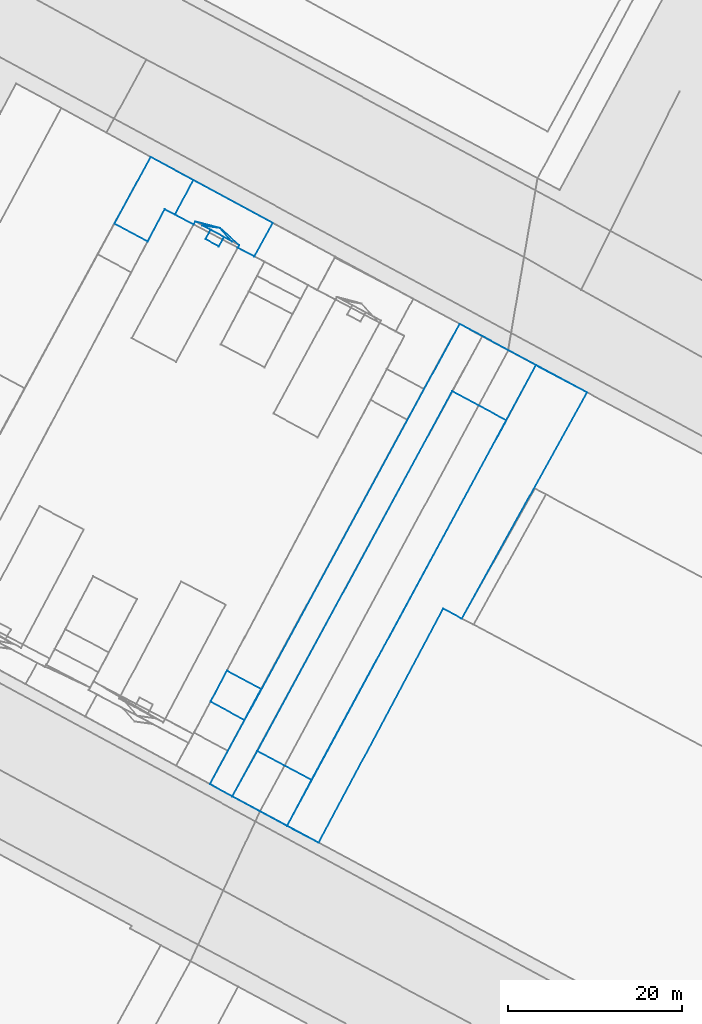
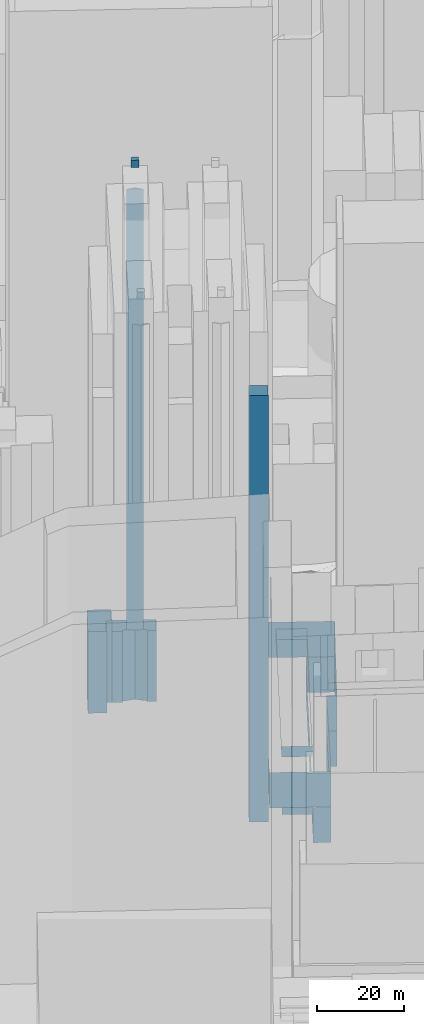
# Not in any storey, part 19 of 76: 9 walls.
"""IFC2X3 model written with IfcOpenShell, lengths in metres."""

from ifc_helpers import new_model, si_unit, frame, origin_with_axes, place, context, subcontext, project, faceted_brep, element, save


model = new_model("IFC2X3")

# Units and contexts
model_context = context("Model", 3, precision=1e-05, world=origin_with_axes())
body_context = subcontext(model_context, "Body", "Model", "MODEL_VIEW")
ifc_project = project(units=[si_unit("AREAUNIT", "SQUARE_METRE"), si_unit("LENGTHUNIT", "METRE")], contexts=[model_context])

# Walls
wall_1_placement = place(None, frame((117.977917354, 107.1295738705, 28.6103156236), z_axis=(0.0, 0.0, 1.0), x_axis=(1.0, 0.0, 0.0)))
element("IfcWall", 1, at=wall_1_placement, Name="Mur 0", context=body_context, shape_type="Brep", body=[
    faceted_brep([(6.3201951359, -3.4126857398, 2.0), (0.0, 0.0, 2.0), (6.3201951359, -3.4126857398, 0.0), (0.0, 0.0, 0.0), (9.1372634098, 1.8825086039, 2.0), (9.1372634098, 1.8825086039, 0.0), (2.9022495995, 5.2295679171, 2.0), (2.9022495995, 5.2295679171, 0.0)], [[[0, 1, 2]], [[2, 1, 3]], [[4, 0, 5]], [[5, 0, 2]], [[1, 6, 3]], [[3, 6, 7]], [[6, 4, 7]], [[7, 4, 5]]]),
])
wall_2_placement = place(None, frame((115.4875749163, 118.0363623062, 20.7911243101), z_axis=(0.0, 0.0, 1.0), x_axis=(1.0, 0.0, 0.0)))
element("IfcWall", 2, at=wall_2_placement, Name="Mur 0", context=body_context, shape_type="Brep", body=[
    faceted_brep([(3.8991819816, -2.1085420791, 120.0), (0.0, 0.0, 120.0), (3.8991819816, -2.1085420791, 0.0), (0.0, 0.0, 0.0), (5.8246692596, 1.4554440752, 120.0), (5.8246692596, 1.4554440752, 0.0), (1.8915978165, 3.5746936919, 120.0), (1.8915978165, 3.5746936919, 0.0)], [[[0, 1, 2]], [[2, 1, 3]], [[4, 0, 5]], [[5, 0, 2]], [[1, 6, 3]], [[3, 6, 7]], [[6, 4, 7]], [[7, 4, 5]]]),
])
wall_3_placement = place(None, frame((124.2981124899, 103.7168881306, 20.5602683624), z_axis=(0.0, 0.0, 1.0), x_axis=(1.0, 0.0, 0.0)))
element("IfcWall", 3, at=wall_3_placement, Name="Mur 0", context=body_context, shape_type="Brep", body=[
    faceted_brep([(3.6522260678, -1.9226684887, 10.0), (0.0, 0.0, 10.0), (3.6522260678, -1.9226684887, 0.0), (0.0, 0.0, 0.0), (18.0018064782, 25.0559943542, 10.0), (18.0018064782, 25.0559943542, 0.0), (20.1510385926, 23.8930274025, 10.0), (20.1510385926, 23.8930274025, 0.0), (34.5701681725, 49.9621498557, 10.0), (34.5701681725, 49.9621498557, 0.0), (28.6922531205, 53.0912869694, 10.0), (28.6922531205, 53.0912869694, 0.0)], [[[0, 1, 2]], [[2, 1, 3]], [[4, 0, 5]], [[5, 0, 2]], [[6, 4, 7]], [[7, 4, 5]], [[8, 6, 9]], [[9, 6, 7]], [[1, 10, 3]], [[3, 10, 11]], [[10, 8, 11]], [[11, 8, 9]]]),
])
wall_4_placement = place(None, frame((115.4207049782, 108.532058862, 30.5602683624), z_axis=(0.0, 0.0, 1.0), x_axis=(1.0, 0.0, 0.0)))
element("IfcWall", 4, at=wall_4_placement, Name="Mur 0", context=body_context, shape_type="Brep", body=[
    faceted_brep([(12.5296335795, -6.7378392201, 10.0), (0.0, 0.0, 10.0), (12.5296335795, -6.7378392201, 0.0), (0.0, 0.0, 0.0), (26.8792139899, 20.2408236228, 10.0), (26.8792139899, 20.2408236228, 0.0), (29.0284461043, 19.0778566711, 10.0), (29.0284461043, 19.0778566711, 0.0), (43.4475756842, 45.1469791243, 10.0), (43.4475756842, 45.1469791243, 0.0), (28.7687753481, 53.0477319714, 10.0), (28.7687753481, 53.0477319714, 0.0)], [[[0, 1, 2]], [[2, 1, 3]], [[4, 0, 5]], [[5, 0, 2]], [[6, 4, 7]], [[7, 4, 5]], [[8, 6, 9]], [[9, 6, 7]], [[1, 10, 3]], [[3, 10, 11]], [[10, 8, 11]], [[11, 8, 9]]]),
])
wall_5_placement = place(None, frame((120.8801669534, 112.3591417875, 40.6481645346), z_axis=(0.0, 0.0, 1.0), x_axis=(1.0, 0.0, 0.0)))
element("IfcWall", 5, at=wall_5_placement, Name="Mur 0", context=body_context, shape_type="Brep", body=[
    faceted_brep([(6.2350138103, -3.3470593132, 3.0), (0.0, 0.0, 3.0), (6.2350138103, -3.3470593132, 0.0), (0.0, 0.0, 0.0), (28.6975847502, 38.1032951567, 3.0), (28.6975847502, 38.1032951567, 0.0), (22.4624654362, 41.461436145, 3.0), (22.4624654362, 41.461436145, 0.0)], [[[0, 1, 2]], [[2, 1, 3]], [[4, 0, 5]], [[5, 0, 2]], [[1, 6, 3]], [[3, 6, 7]], [[6, 4, 7]], [[7, 4, 5]]]),
])
wall_6_placement = place(None, frame((114.5459395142, 172.9371592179, 41.8919622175), z_axis=(0.0, 0.0, 1.0), x_axis=(1.0, 0.0, 0.0)))
element("IfcWall", 6, at=wall_6_placement, Name="Mur 0", context=body_context, shape_type="Brep", body=[
    faceted_brep([(2.4804532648, -1.3367629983, 124.0), (0.0, 0.0, 124.0), (2.4804532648, -1.3367629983, 0.0), (0.0, 0.0, 0.0), (3.4318372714, -1.8475169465, 124.0), (3.4318372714, -1.8475169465, 0.0), (2.0464414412, -0.3092952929, 124.0), (2.0464414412, -0.3092952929, 0.0)], [[[0, 1, 2]], [[2, 1, 3]], [[4, 0, 5]], [[5, 0, 2]], [[1, 6, 3]], [[3, 6, 7]], [[6, 4, 7]], [[7, 4, 5]]]),
])
wall_7_placement = place(None, frame((114.9105640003, 171.3426705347, 172.8731858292), z_axis=(0.0, 0.0, 1.0), x_axis=(1.0, 0.0, 0.0)))
element("IfcWall", 7, at=wall_7_placement, Name="Mur 0", context=body_context, shape_type="Brep", body=[
    faceted_brep([(1.529069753, -0.8260088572, 2.0), (0.0, 0.0, 2.0), (1.529069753, -0.8260088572, 0.0), (0.0, 0.0, 0.0), (2.1158287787, 0.2577256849, 2.0), (2.1158287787, 0.2577256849, 0.0), (0.5867591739, 1.0837344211, 2.0), (0.5867591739, 1.0837344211, 0.0)], [[[0, 1, 2]], [[2, 1, 3]], [[4, 0, 5]], [[5, 0, 2]], [[1, 6, 3]], [[3, 6, 7]], [[6, 4, 7]], [[7, 4, 5]]]),
])
wall_8_placement = place(None, frame((111.3914170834, 174.1661728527, 21.831197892), z_axis=(0.0, 0.0, 1.0), x_axis=(1.0, 0.0, 0.0)))
element("IfcWall", 8, at=wall_8_placement, Name="Mur 0", context=body_context, shape_type="Brep", body=[
    faceted_brep([(2.1403869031, -1.1297715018, 20.0), (0.0, 0.0, 20.0), (2.1403869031, -1.1297715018, 0.0), (0.0, 0.0, 0.0), (2.3305183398, -0.7833931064, 20.0), (2.3305183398, -0.7833931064, 0.0), (5.2009638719, -1.5383089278, 20.0), (5.2009638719, -1.5383089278, 0.0), (7.4103643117, -3.5221506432, 20.0), (7.4103643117, -3.5221506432, 0.0), (7.2449094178, -3.8127312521, 20.0), (7.2449094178, -3.8127312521, 0.0), (9.1388508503, -4.8010344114, 20.0), (9.1388508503, -4.8010344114, 0.0), (11.2550985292, -0.9461725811, 20.0), (11.2550985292, -0.9461725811, 0.0), (2.1061341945, 3.9990709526, 20.0), (2.1061341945, 3.9990709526, 0.0)], [[[0, 1, 2]], [[2, 1, 3]], [[4, 0, 5]], [[5, 0, 2]], [[6, 4, 7]], [[7, 4, 5]], [[8, 6, 9]], [[9, 6, 7]], [[10, 8, 11]], [[11, 8, 9]], [[12, 10, 13]], [[13, 10, 11]], [[14, 12, 15]], [[15, 12, 13]], [[1, 16, 3]], [[3, 16, 17]], [[16, 14, 17]], [[17, 14, 15]]]),
])
wall_9_placement = place(None, frame((104.4137399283, 173.1414332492, 21.8630474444), z_axis=(0.0, 0.0, 1.0), x_axis=(1.0, 0.0, 0.0)))
element("IfcWall", 9, at=wall_9_placement, Name="Mur 0", context=body_context, shape_type="Brep", body=[
    faceted_brep([(3.8311114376, -2.06492888, 23.0), (0.0, 0.0, 23.0), (3.8311114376, -2.06492888, 0.0), (0.0, 0.0, 0.0), (5.7971142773, 1.6438548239, 23.0), (5.7971142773, 1.6438548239, 0.0), (6.9776771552, 1.0247396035, 23.0), (6.9776771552, 1.0247396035, 0.0), (9.0838113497, 5.0238105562, 23.0), (9.0838113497, 5.0238105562, 0.0), (4.1738115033, 7.6757264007, 23.0), (4.1738115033, 7.6757264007, 0.0)], [[[0, 1, 2]], [[2, 1, 3]], [[4, 0, 5]], [[5, 0, 2]], [[6, 4, 7]], [[7, 4, 5]], [[8, 6, 9]], [[9, 6, 7]], [[1, 10, 3]], [[3, 10, 11]], [[10, 8, 11]], [[11, 8, 9]]]),
])

save(model, "model.ifc")
